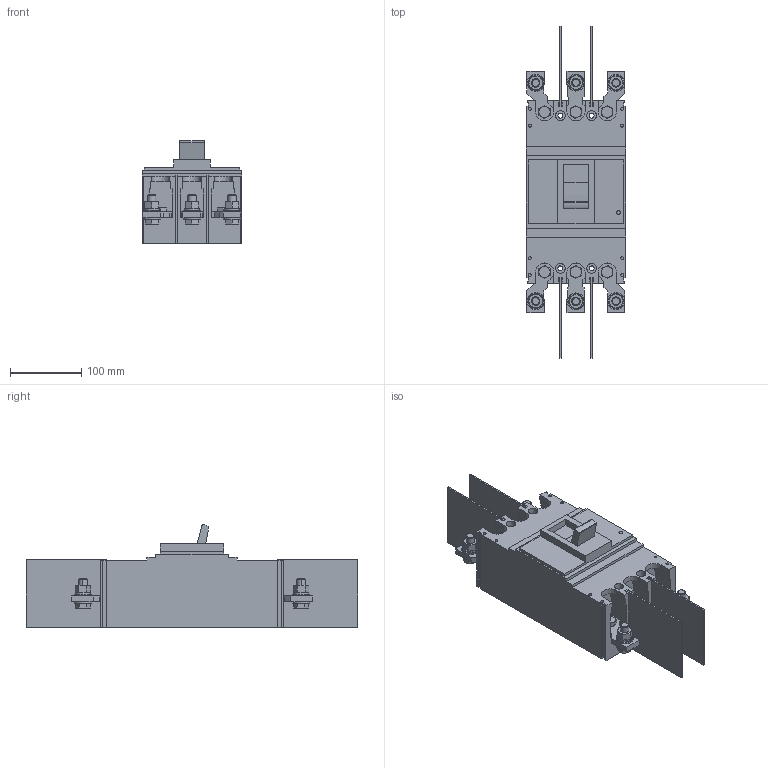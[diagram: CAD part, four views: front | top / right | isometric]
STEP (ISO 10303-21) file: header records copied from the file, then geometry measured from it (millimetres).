
FILE_DESCRIPTION (( 'STEP AP214' ), '1' );
FILE_NAME ('BW400EAGU-3P.STEP', '2020-05-20T07:46:33', ( '' ), ( '' ), 'SwSTEP 2.0', 'SolidWorks 2019', '' );
FILE_SCHEMA (( 'AUTOMOTIVE_DESIGN' ));
Length unit declared in the file: millimetre
Products named in the file (21): Terminal-4^BW400EAGU-3P; BW400EAGU-3P_SWITCH Off; BW400EAG-3P_PLATE2; BW400EAGU-3P; spring lock washer_2_jis_JIS B 1251 No.2 12; BW400EAG-3P_PLATE4; Terminal-3^BW400EAGU-3P; BW400EAG-3P_PLATE5; Terminal-6^BW400EAGU-3P; Terminal-2^BW400EAGU-3P; Terminal-1^BW400EAGU-3P; Terminal-5^BW400EAGU-3P; hexagon nut_1_jis_JIS B 1181 Hexagon nut - Class 1 Finished M12 --N; BW400EAG-3P_PLATE1; continuous thread hexagon head bolt_a_jis_JIS B 1180 Continuous thread hexagon head bolt A M10 x 35 --N; BW400EAG-3P_PLATE3; B-43A; BW400EAG-3P_CASE; regular circular plain washer_jis_JIS B 1256 Regular circular 12; continuous thread hexagon head bolt_a_jis_JIS B 1180 Continuous thread hexagon head bolt A M12 x 35 --N; BW400EAG-3P_PLATE6
Assembly tree (54 placements, depth 3):
  BW400EAGU-3P
    BW400EAG-3P_CASE
    Terminal-1^BW400EAGU-3P
      BW400EAG-3P_PLATE1
      regular circular plain washer_jis_JIS B 1256 Regular circular 12  x2
      continuous thread hexagon head bolt_a_jis_JIS B 1180 Continuous thread hexagon head bolt A M12 x 35 --N
      spring lock washer_2_jis_JIS B 1251 No.2 12
      hexagon nut_1_jis_JIS B 1181 Hexagon nut - Class 1 Finished M12 --N
      continuous thread hexagon head bolt_a_jis_JIS B 1180 Continuous thread hexagon head bolt A M10 x 35 --N
    Terminal-2^BW400EAGU-3P
      BW400EAG-3P_PLATE2
      regular circular plain washer_jis_JIS B 1256 Regular circular 12  x2
      continuous thread hexagon head bolt_a_jis_JIS B 1180 Continuous thread hexagon head bolt A M12 x 35 --N
      spring lock washer_2_jis_JIS B 1251 No.2 12
      hexagon nut_1_jis_JIS B 1181 Hexagon nut - Class 1 Finished M12 --N
      continuous thread hexagon head bolt_a_jis_JIS B 1180 Continuous thread hexagon head bolt A M10 x 35 --N
    Terminal-3^BW400EAGU-3P
      BW400EAG-3P_PLATE3
      regular circular plain washer_jis_JIS B 1256 Regular circular 12  x2
      continuous thread hexagon head bolt_a_jis_JIS B 1180 Continuous thread hexagon head bolt A M12 x 35 --N
      spring lock washer_2_jis_JIS B 1251 No.2 12
      hexagon nut_1_jis_JIS B 1181 Hexagon nut - Class 1 Finished M12 --N
      continuous thread hexagon head bolt_a_jis_JIS B 1180 Continuous thread hexagon head bolt A M10 x 35 --N
    Terminal-4^BW400EAGU-3P
      BW400EAG-3P_PLATE4
      regular circular plain washer_jis_JIS B 1256 Regular circular 12  x2
      continuous thread hexagon head bolt_a_jis_JIS B 1180 Continuous thread hexagon head bolt A M12 x 35 --N
      spring lock washer_2_jis_JIS B 1251 No.2 12
      hexagon nut_1_jis_JIS B 1181 Hexagon nut - Class 1 Finished M12 --N
      continuous thread hexagon head bolt_a_jis_JIS B 1180 Continuous thread hexagon head bolt A M10 x 35 --N
    Terminal-5^BW400EAGU-3P
      BW400EAG-3P_PLATE5
      regular circular plain washer_jis_JIS B 1256 Regular circular 12  x2
      continuous thread hexagon head bolt_a_jis_JIS B 1180 Continuous thread hexagon head bolt A M12 x 35 --N
      spring lock washer_2_jis_JIS B 1251 No.2 12
      hexagon nut_1_jis_JIS B 1181 Hexagon nut - Class 1 Finished M12 --N
      continuous thread hexagon head bolt_a_jis_JIS B 1180 Continuous thread hexagon head bolt A M10 x 35 --N
    Terminal-6^BW400EAGU-3P
      BW400EAG-3P_PLATE6
      regular circular plain washer_jis_JIS B 1256 Regular circular 12  x2
      continuous thread hexagon head bolt_a_jis_JIS B 1180 Continuous thread hexagon head bolt A M12 x 35 --N
      spring lock washer_2_jis_JIS B 1251 No.2 12
      hexagon nut_1_jis_JIS B 1181 Hexagon nut - Class 1 Finished M12 --N
      continuous thread hexagon head bolt_a_jis_JIS B 1180 Continuous thread hexagon head bolt A M10 x 35 --N
    BW400EAGU-3P_SWITCH Off
    B-43A  x4
Bounding box: 140 x 467 x 144.22 mm (x, y, z)
Volume: 3508928.6 mm3; surface area: 386833.8 mm2
Topology: 48 solids, 48 shells, 961 faces, 2208 edges, 1376 vertices
Faces by surface type: plane 570, cylinder 211, cone 156, torus 24
Entity records: 16030 total; most frequent: CARTESIAN_POINT 2610, DIRECTION 2358, ORIENTED_EDGE 2280, EDGE_CURVE 1140, LINE 870, VECTOR 870, VERTEX_POINT 744, AXIS2_PLACEMENT_3D 744
